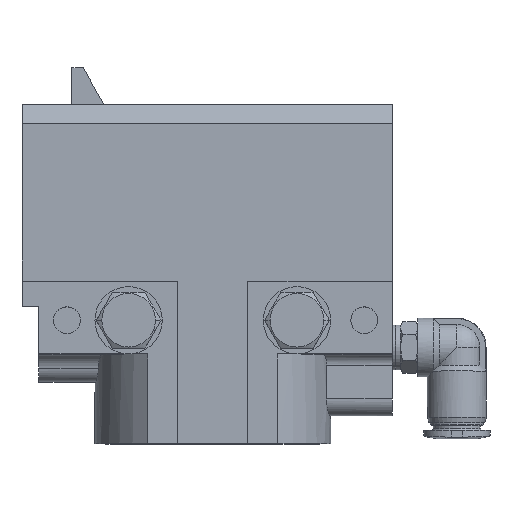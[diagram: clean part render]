
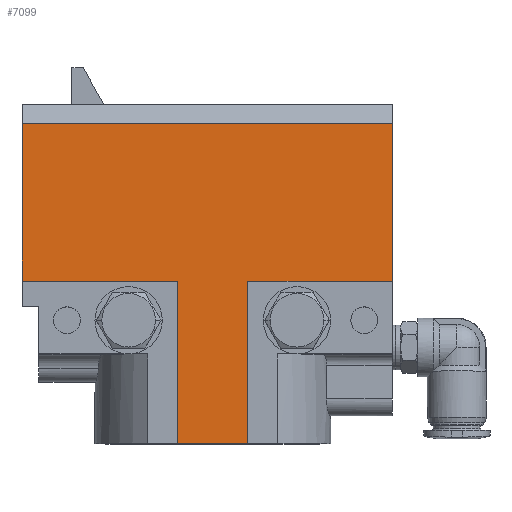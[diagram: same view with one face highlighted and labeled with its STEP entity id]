
A CAD part, top view. The second image highlights one B-rep face of the part: STEP entity #7099.
In plain terms, the highlighted planar face has unit normal (0, 0, 1).
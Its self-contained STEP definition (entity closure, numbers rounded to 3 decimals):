
#75 = CARTESIAN_POINT ( 'NONE',  ( -8.9, -33., 17.3 ) ) ;
#272 = LINE ( 'NONE', #9337, #16211 ) ;
#573 = CARTESIAN_POINT ( 'NONE',  ( 31.35, -33., 17.3 ) ) ;
#1271 = CARTESIAN_POINT ( 'NONE',  ( -8.9, -33., 17.3 ) ) ;
#2402 = ORIENTED_EDGE ( 'NONE', *, *, #15288, .T. ) ;
#3122 = LINE ( 'NONE', #12192, #11039 ) ;
#3539 = VECTOR ( 'NONE', #4828, 1000. ) ;
#3933 = DIRECTION ( 'NONE',  ( -1., 0., 0. ) ) ;
#4167 = VERTEX_POINT ( 'NONE', #14772 ) ;
#4322 = EDGE_CURVE ( 'NONE', #17612, #4167, #272, .T. ) ;
#4782 = EDGE_CURVE ( 'NONE', #21717, #25524, #21658, .T. ) ;
#4828 = DIRECTION ( 'NONE',  ( -1., 0., 0. ) ) ;
#5179 = ORIENTED_EDGE ( 'NONE', *, *, #27279, .T. ) ;
#5926 = CARTESIAN_POINT ( 'NONE',  ( 18.85, -62., 17.3 ) ) ;
#6159 = PLANE ( 'NONE',  #21293 ) ;
#6902 = CARTESIAN_POINT ( 'NONE',  ( 18.85, -46., 17.3 ) ) ;
#7099 = ADVANCED_FACE ( 'NONE', ( #26569 ), #6159, .F. ) ;
#8256 = CARTESIAN_POINT ( 'NONE',  ( 31.35, -62., 17.3 ) ) ;
#8964 = EDGE_CURVE ( 'NONE', #17612, #15127, #3122, .T. ) ;
#9146 = DIRECTION ( 'NONE',  ( 0., 1., 0. ) ) ;
#9314 = LINE ( 'NONE', #25231, #3539 ) ;
#9337 = CARTESIAN_POINT ( 'NONE',  ( 31.35, -46., 17.3 ) ) ;
#9781 = ORIENTED_EDGE ( 'NONE', *, *, #8964, .T. ) ;
#10326 = DIRECTION ( 'NONE',  ( 1., 0., 0. ) ) ;
#10588 = VECTOR ( 'NONE', #17345, 1000. ) ;
#10687 = ORIENTED_EDGE ( 'NONE', *, *, #11644, .T. ) ;
#11039 = VECTOR ( 'NONE', #21271, 1000. ) ;
#11283 = LINE ( 'NONE', #20370, #24339 ) ;
#11644 = EDGE_CURVE ( 'NONE', #25524, #16424, #27319, .T. ) ;
#12138 = VERTEX_POINT ( 'NONE', #28153 ) ;
#12192 = CARTESIAN_POINT ( 'NONE',  ( -8.9, -33., 17.3 ) ) ;
#14772 = CARTESIAN_POINT ( 'NONE',  ( 31.35, -62., 17.3 ) ) ;
#15127 = VERTEX_POINT ( 'NONE', #26455 ) ;
#15255 = CARTESIAN_POINT ( 'NONE',  ( 31.35, -46., 17.3 ) ) ;
#15288 = EDGE_CURVE ( 'NONE', #22947, #12138, #9314, .T. ) ;
#16000 = DIRECTION ( 'NONE',  ( 0., -1., 0. ) ) ;
#16211 = VECTOR ( 'NONE', #18415, 1000. ) ;
#16424 = VERTEX_POINT ( 'NONE', #5926 ) ;
#17345 = DIRECTION ( 'NONE',  ( 1., 0., 0. ) ) ;
#17612 = VERTEX_POINT ( 'NONE', #573 ) ;
#18134 = VECTOR ( 'NONE', #9146, 1000. ) ;
#18415 = DIRECTION ( 'NONE',  ( 0., -1., 0. ) ) ;
#20370 = CARTESIAN_POINT ( 'NONE',  ( 57.1, -33., 17.3 ) ) ;
#20447 = LINE ( 'NONE', #75, #18134 ) ;
#21271 = DIRECTION ( 'NONE',  ( 1., 0., 0. ) ) ;
#21293 = AXIS2_PLACEMENT_3D ( 'NONE', #15255, #24327, #3933 ) ;
#21458 = VECTOR ( 'NONE', #10326, 1000. ) ;
#21492 = CARTESIAN_POINT ( 'NONE',  ( 57.1, -5., 17.3 ) ) ;
#21658 = LINE ( 'NONE', #1271, #21458 ) ;
#21717 = VERTEX_POINT ( 'NONE', #25850 ) ;
#22620 = CARTESIAN_POINT ( 'NONE',  ( 18.85, -33., 17.3 ) ) ;
#22947 = VERTEX_POINT ( 'NONE', #21492 ) ;
#23603 = EDGE_CURVE ( 'NONE', #21717, #12138, #20447, .T. ) ;
#23828 = ORIENTED_EDGE ( 'NONE', *, *, #26208, .T. ) ;
#24327 = DIRECTION ( 'NONE',  ( 0., 0., -1. ) ) ;
#24339 = VECTOR ( 'NONE', #29464, 1000. ) ;
#25231 = CARTESIAN_POINT ( 'NONE',  ( 31.35, -5., 17.3 ) ) ;
#25524 = VERTEX_POINT ( 'NONE', #22620 ) ;
#25824 = ORIENTED_EDGE ( 'NONE', *, *, #23603, .F. ) ;
#25850 = CARTESIAN_POINT ( 'NONE',  ( -8.9, -33., 17.3 ) ) ;
#26208 = EDGE_CURVE ( 'NONE', #15127, #22947, #11283, .T. ) ;
#26304 = VECTOR ( 'NONE', #16000, 1000. ) ;
#26455 = CARTESIAN_POINT ( 'NONE',  ( 57.1, -33., 17.3 ) ) ;
#26569 = FACE_OUTER_BOUND ( 'NONE', #28749, .T. ) ;
#26860 = ORIENTED_EDGE ( 'NONE', *, *, #4782, .T. ) ;
#27279 = EDGE_CURVE ( 'NONE', #16424, #4167, #28652, .T. ) ;
#27319 = LINE ( 'NONE', #6902, #26304 ) ;
#28153 = CARTESIAN_POINT ( 'NONE',  ( -8.9, -5., 17.3 ) ) ;
#28326 = ORIENTED_EDGE ( 'NONE', *, *, #4322, .F. ) ;
#28652 = LINE ( 'NONE', #8256, #10588 ) ;
#28749 = EDGE_LOOP ( 'NONE', ( #23828, #2402, #25824, #26860, #10687, #5179, #28326, #9781 ) ) ;
#29464 = DIRECTION ( 'NONE',  ( 0., 1., 0. ) ) ;
